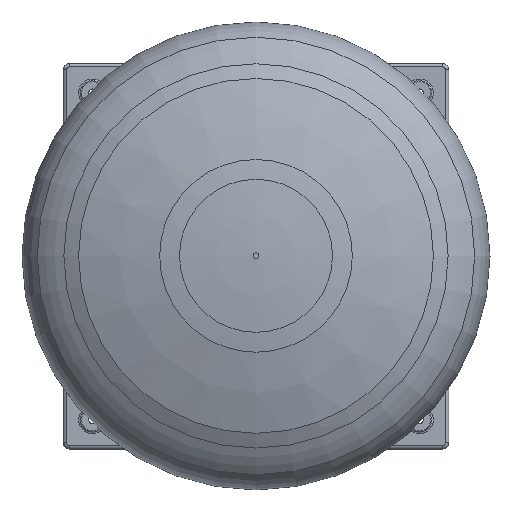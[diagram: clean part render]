
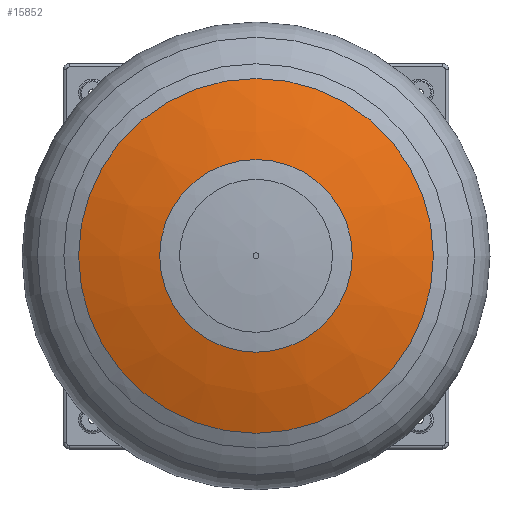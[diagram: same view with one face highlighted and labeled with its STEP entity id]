
A CAD part, top view. The second image highlights one B-rep face of the part: STEP entity #15852.
In plain terms, the highlighted free-form (B-spline) face has degree [2, 2] with [3, 9] control points.
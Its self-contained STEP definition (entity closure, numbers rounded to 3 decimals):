
#26=(
BOUNDED_SURFACE()
B_SPLINE_SURFACE(2,2,((#34211,#34212,#34213,#34214,#34215,#34216,#34217,
#34218,#34219),(#34220,#34221,#34222,#34223,#34224,#34225,#34226,#34227,
#34228),(#34229,#34230,#34231,#34232,#34233,#34234,#34235,#34236,#34237)),
 .UNSPECIFIED.,.F.,.T.,.F.)
B_SPLINE_SURFACE_WITH_KNOTS((3,3),(3,2,2,2,3),(1.203,1.38),
(-3.142,-1.571,0.,1.571,3.142),
 .UNSPECIFIED.)
GEOMETRIC_REPRESENTATION_ITEM()
RATIONAL_B_SPLINE_SURFACE(((1.,0.707,1.,0.707,1.,
0.707,1.,0.707,1.),(0.996,0.704,
0.996,0.704,0.996,0.704,
0.996,0.704,0.996),(1.,0.707,
1.,0.707,1.,0.707,1.,0.707,1.)))
REPRESENTATION_ITEM('')
SURFACE()
);
#3963=FACE_OUTER_BOUND('',#4880,.T.);
#4880=EDGE_LOOP('',(#12788,#12789,#12790,#12791,#12792,#12793,#12794,#12795));
#5355=CIRCLE('',#16830,290.);
#5356=CIRCLE('',#16831,290.);
#5357=CIRCLE('',#16832,290.);
#5358=CIRCLE('',#16833,776.413);
#5359=CIRCLE('',#16834,157.5);
#5360=CIRCLE('',#16835,157.5);
#5361=CIRCLE('',#16836,157.5);
#6740=VERTEX_POINT('',#34204);
#6741=VERTEX_POINT('',#34206);
#6742=VERTEX_POINT('',#34208);
#6743=VERTEX_POINT('',#34238);
#6744=VERTEX_POINT('',#34240);
#6745=VERTEX_POINT('',#34242);
#8800=EDGE_CURVE('',#6741,#6740,#5355,.T.);
#8801=EDGE_CURVE('',#6742,#6741,#5356,.T.);
#8802=EDGE_CURVE('',#6740,#6742,#5357,.T.);
#8803=EDGE_CURVE('',#6740,#6743,#5358,.T.);
#8804=EDGE_CURVE('',#6744,#6743,#5359,.T.);
#8805=EDGE_CURVE('',#6745,#6744,#5360,.T.);
#8806=EDGE_CURVE('',#6743,#6745,#5361,.T.);
#12788=ORIENTED_EDGE('',*,*,#8801,.T.);
#12789=ORIENTED_EDGE('',*,*,#8800,.T.);
#12790=ORIENTED_EDGE('',*,*,#8803,.T.);
#12791=ORIENTED_EDGE('',*,*,#8804,.F.);
#12792=ORIENTED_EDGE('',*,*,#8805,.F.);
#12793=ORIENTED_EDGE('',*,*,#8806,.F.);
#12794=ORIENTED_EDGE('',*,*,#8803,.F.);
#12795=ORIENTED_EDGE('',*,*,#8802,.T.);
#15852=ADVANCED_FACE('',(#3963),#26,.F.);
#16830=AXIS2_PLACEMENT_3D('',#34207,#19264,#19265);
#16831=AXIS2_PLACEMENT_3D('',#34209,#19266,#19267);
#16832=AXIS2_PLACEMENT_3D('',#34210,#19268,#19269);
#16833=AXIS2_PLACEMENT_3D('',#34239,#19270,#19271);
#16834=AXIS2_PLACEMENT_3D('',#34241,#19272,#19273);
#16835=AXIS2_PLACEMENT_3D('',#34243,#19274,#19275);
#16836=AXIS2_PLACEMENT_3D('',#34244,#19276,#19277);
#19264=DIRECTION('center_axis',(0.,0.,1.));
#19265=DIRECTION('ref_axis',(1.,0.,0.));
#19266=DIRECTION('center_axis',(0.,0.,1.));
#19267=DIRECTION('ref_axis',(1.,0.,0.));
#19268=DIRECTION('center_axis',(0.,0.,1.));
#19269=DIRECTION('ref_axis',(1.,0.,0.));
#19270=DIRECTION('center_axis',(1.,0.,0.));
#19271=DIRECTION('ref_axis',(0.,1.,0.));
#19272=DIRECTION('center_axis',(0.,0.,1.));
#19273=DIRECTION('ref_axis',(1.,0.,0.));
#19274=DIRECTION('center_axis',(0.,0.,1.));
#19275=DIRECTION('ref_axis',(1.,0.,0.));
#19276=DIRECTION('center_axis',(0.,0.,1.));
#19277=DIRECTION('ref_axis',(1.,0.,0.));
#34204=CARTESIAN_POINT('',(3.855,292.432,382.245));
#34206=CARTESIAN_POINT('',(293.855,2.432,382.245));
#34207=CARTESIAN_POINT('Origin',(3.855,2.432,382.245));
#34208=CARTESIAN_POINT('',(-286.145,2.432,382.245));
#34209=CARTESIAN_POINT('Origin',(3.855,2.432,382.245));
#34210=CARTESIAN_POINT('Origin',(3.855,2.432,382.245));
#34211=CARTESIAN_POINT('Ctrl Pts',(3.855,292.432,382.245));
#34212=CARTESIAN_POINT('Ctrl Pts',(-286.145,292.432,382.245));
#34213=CARTESIAN_POINT('Ctrl Pts',(-286.145,2.432,382.245));
#34214=CARTESIAN_POINT('Ctrl Pts',(-286.145,-287.568,
382.245));
#34215=CARTESIAN_POINT('Ctrl Pts',(3.855,-287.568,382.245));
#34216=CARTESIAN_POINT('Ctrl Pts',(293.855,-287.568,382.245));
#34217=CARTESIAN_POINT('Ctrl Pts',(293.855,2.432,382.245));
#34218=CARTESIAN_POINT('Ctrl Pts',(293.855,292.432,382.245));
#34219=CARTESIAN_POINT('Ctrl Pts',(3.855,292.432,382.245));
#34220=CARTESIAN_POINT('Ctrl Pts',(3.855,227.875,407.149));
#34221=CARTESIAN_POINT('Ctrl Pts',(-221.588,227.875,407.149));
#34222=CARTESIAN_POINT('Ctrl Pts',(-221.588,2.432,407.149));
#34223=CARTESIAN_POINT('Ctrl Pts',(-221.588,-223.011,
407.149));
#34224=CARTESIAN_POINT('Ctrl Pts',(3.855,-223.011,407.149));
#34225=CARTESIAN_POINT('Ctrl Pts',(229.299,-223.011,407.149));
#34226=CARTESIAN_POINT('Ctrl Pts',(229.299,2.432,407.149));
#34227=CARTESIAN_POINT('Ctrl Pts',(229.299,227.875,407.149));
#34228=CARTESIAN_POINT('Ctrl Pts',(3.855,227.875,407.149));
#34229=CARTESIAN_POINT('Ctrl Pts',(3.855,159.932,420.245));
#34230=CARTESIAN_POINT('Ctrl Pts',(-153.645,159.932,420.245));
#34231=CARTESIAN_POINT('Ctrl Pts',(-153.645,2.432,420.245));
#34232=CARTESIAN_POINT('Ctrl Pts',(-153.645,-155.068,
420.245));
#34233=CARTESIAN_POINT('Ctrl Pts',(3.855,-155.068,420.245));
#34234=CARTESIAN_POINT('Ctrl Pts',(161.355,-155.068,420.245));
#34235=CARTESIAN_POINT('Ctrl Pts',(161.355,2.432,420.245));
#34236=CARTESIAN_POINT('Ctrl Pts',(161.355,159.932,420.245));
#34237=CARTESIAN_POINT('Ctrl Pts',(3.855,159.932,420.245));
#34238=CARTESIAN_POINT('',(3.855,159.932,420.245));
#34239=CARTESIAN_POINT('Origin',(3.855,12.986,-342.136));
#34240=CARTESIAN_POINT('',(161.355,2.432,420.245));
#34241=CARTESIAN_POINT('Origin',(3.855,2.432,420.245));
#34242=CARTESIAN_POINT('',(-153.645,2.432,420.245));
#34243=CARTESIAN_POINT('Origin',(3.855,2.432,420.245));
#34244=CARTESIAN_POINT('Origin',(3.855,2.432,420.245));
